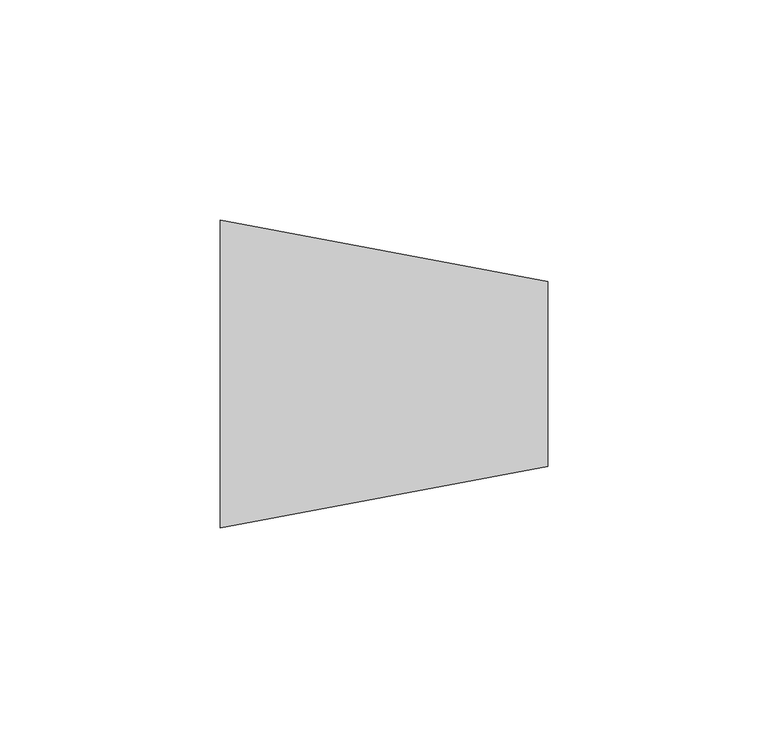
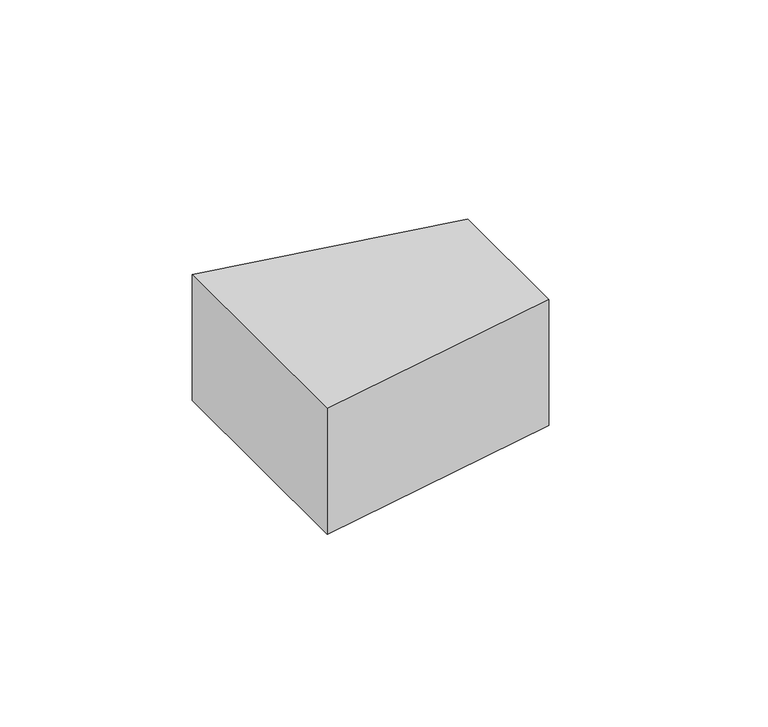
"""IFC4 building model written with IfcOpenShell, lengths in millimetres: duct fitting geometry, КНС_Переходники_DKC : Переходники_DKC."""

from ifc_helpers import new_model, si_unit, frame, origin, place, context, project, spatial, polyline, outline, extrude, source, transform, mapped, element, save


def duct_fitting_c6354664(model_context):
    return source(origin(), model_context, "Body", "SweptSolid", [
        extrude(outline(polyline([(0.0, -35.0), (0.0, 35.0), (74.5, 21.0), (74.5, -21.0), (0.0, -35.0)])), frame((0.0, 0.0, -20.0), z_axis=(0.0, 0.0, 1.0), x_axis=(1.0, 0.0, 0.0)), (0.0, 0.0, 1.0), 40.0),
    ])


if __name__ == "__main__":
    model = new_model("IFC4")
    model_context = context("Model", 3, world=origin())
    ifc_project = project(units=[si_unit("LENGTHUNIT", "METRE", prefix="MILLI")], contexts=[model_context])
    site = spatial("IfcSite", under=ifc_project)
    building = spatial("IfcBuilding", under=site)
    placement = place(None, origin())
    duct_fitting_shape = duct_fitting_c6354664(model_context)
    element("IfcDuctFitting", 1, ObjectType="КНС_Переходники_DKC : Переходники_DKC", at=placement, inside=building, context=model_context, shape_type="MappedRepresentation", body=[
        mapped(duct_fitting_shape, transform((0.0, 0.0, 0.0), x_axis=(1.0, 0.0, 0.0), y_axis=(0.0, 1.0, 0.0), z_axis=(0.0, 0.0, 1.0))),
    ])
    save(model, "model.ifc")
